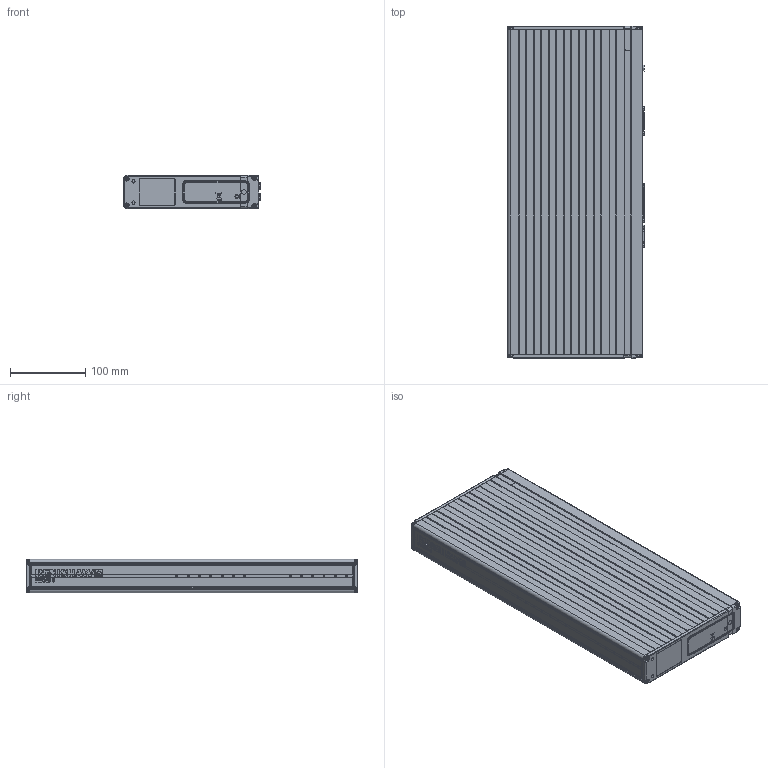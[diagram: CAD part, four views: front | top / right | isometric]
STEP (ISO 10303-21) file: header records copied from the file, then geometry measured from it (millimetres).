
FILE_DESCRIPTION(/* description */ (''),/* implementation_level */ '2;1');
FILE_NAME(/* name */ 'A-5684-0100-02-A PHC10-3 Assembly.stp',/* time_stamp */ '2012-04-24T13:57:41+01:00',/* author */ (''),/* organization */ (''),/* preprocessor_version */ 'ST-DEVELOPER v11',/* originating_system */ 'SIEMENS PLM Software NX 7.5',/* authorisation */ '');
FILE_SCHEMA (('AUTOMOTIVE_DESIGN { 1 0 10303 214 1 1 1 1 }'));
Products named in the file (1): jh1084DFz1ke
Bounding box: 181.13 x 440 x 44.04 mm (x, y, z)
Volume: 532490.9 mm3; surface area: 528695.2 mm2
Topology: 172 solids, 172 shells, 8441 faces, 23445 edges, 15968 vertices
Faces by surface type: plane 6215, cylinder 1274, extrusion 494, cone 225, torus 129, sphere 62, bspline 42
Full cylindrical faces by diameter (mm): 0.398 x2, 0.672 x2, 0.756 x1, 0.98 x25, 1.2 x3, 2 x1, 2.2 x1, 2.261 x2, 2.35 x8, 2.5 x25, 2.845 x8, 2.9 x9, 3.2 x8, 3.5 x10, 4.2 x5, 5 x2, 5.39 x2, 5.5 x9, 6 x2, 6.3 x1, 7.5 x1, 8.7 x1, 9 x1, 9.82 x2, 17 x1, 17.7 x1
Entity records: 312526 total; most frequent: CARTESIAN_POINT 94849, ORIENTED_EDGE 45116, DIRECTION 35152, EDGE_CURVE 22558, VERTEX_POINT 14838, VECTOR 13232, LINE 12738, AXIS2_PLACEMENT_3D 10960
